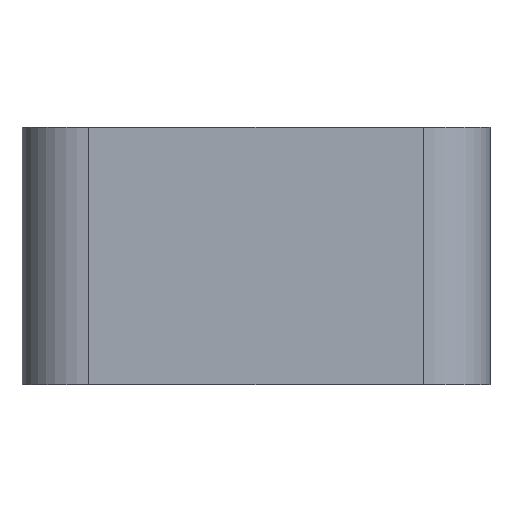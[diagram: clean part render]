
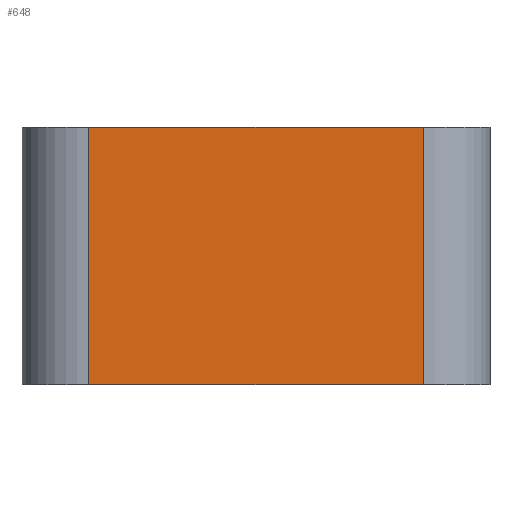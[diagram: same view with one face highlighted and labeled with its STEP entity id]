
A CAD part, front view. The second image highlights one B-rep face of the part: STEP entity #648.
In plain terms, the highlighted planar face has unit normal (0, -1, 0).
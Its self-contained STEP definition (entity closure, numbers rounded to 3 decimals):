
#35 = VERTEX_POINT ( 'NONE', #957 ) ;
#137 = ORIENTED_EDGE ( 'NONE', *, *, #665, .T. ) ;
#165 = CARTESIAN_POINT ( 'NONE',  ( -9.1, -1.6, 10. ) ) ;
#197 = CARTESIAN_POINT ( 'NONE',  ( -6.5, -1.6, 10. ) ) ;
#204 = VECTOR ( 'NONE', #974, 1000. ) ;
#218 = EDGE_LOOP ( 'NONE', ( #861, #598, #418, #137 ) ) ;
#261 = CARTESIAN_POINT ( 'NONE',  ( -6.5, -1.6, 10. ) ) ;
#290 = LINE ( 'NONE', #647, #805 ) ;
#319 = DIRECTION ( 'NONE',  ( 0., 0., 1. ) ) ;
#412 = EDGE_CURVE ( 'NONE', #676, #35, #781, .T. ) ;
#418 = ORIENTED_EDGE ( 'NONE', *, *, #1100, .F. ) ;
#504 = CARTESIAN_POINT ( 'NONE',  ( -9.1, -1.6, 10. ) ) ;
#515 = LINE ( 'NONE', #504, #1094 ) ;
#523 = FACE_OUTER_BOUND ( 'NONE', #218, .T. ) ;
#598 = ORIENTED_EDGE ( 'NONE', *, *, #412, .T. ) ;
#606 = DIRECTION ( 'NONE',  ( 0., 0., 1. ) ) ;
#647 = CARTESIAN_POINT ( 'NONE',  ( -9.1, -1.6, 0. ) ) ;
#648 = ADVANCED_FACE ( 'NONE', ( #523 ), #961, .F. ) ;
#657 = VECTOR ( 'NONE', #319, 1000. ) ;
#665 = EDGE_CURVE ( 'NONE', #942, #741, #1052, .T. ) ;
#676 = VERTEX_POINT ( 'NONE', #707 ) ;
#707 = CARTESIAN_POINT ( 'NONE',  ( 6.5, -1.6, 0. ) ) ;
#711 = AXIS2_PLACEMENT_3D ( 'NONE', #165, #795, #606 ) ;
#741 = VERTEX_POINT ( 'NONE', #746 ) ;
#746 = CARTESIAN_POINT ( 'NONE',  ( -6.5, -1.6, 0. ) ) ;
#781 = LINE ( 'NONE', #852, #657 ) ;
#795 = DIRECTION ( 'NONE',  ( 0., 1., 0. ) ) ;
#805 = VECTOR ( 'NONE', #993, 1000. ) ;
#852 = CARTESIAN_POINT ( 'NONE',  ( 6.5, -1.6, 10. ) ) ;
#861 = ORIENTED_EDGE ( 'NONE', *, *, #1063, .T. ) ;
#942 = VERTEX_POINT ( 'NONE', #197 ) ;
#957 = CARTESIAN_POINT ( 'NONE',  ( 6.5, -1.6, 10. ) ) ;
#961 = PLANE ( 'NONE',  #711 ) ;
#974 = DIRECTION ( 'NONE',  ( 0., 0., -1. ) ) ;
#993 = DIRECTION ( 'NONE',  ( 1., 0., 0. ) ) ;
#1024 = DIRECTION ( 'NONE',  ( 1., 0., 0. ) ) ;
#1052 = LINE ( 'NONE', #261, #204 ) ;
#1063 = EDGE_CURVE ( 'NONE', #741, #676, #290, .T. ) ;
#1094 = VECTOR ( 'NONE', #1024, 1000. ) ;
#1100 = EDGE_CURVE ( 'NONE', #942, #35, #515, .T. ) ;
